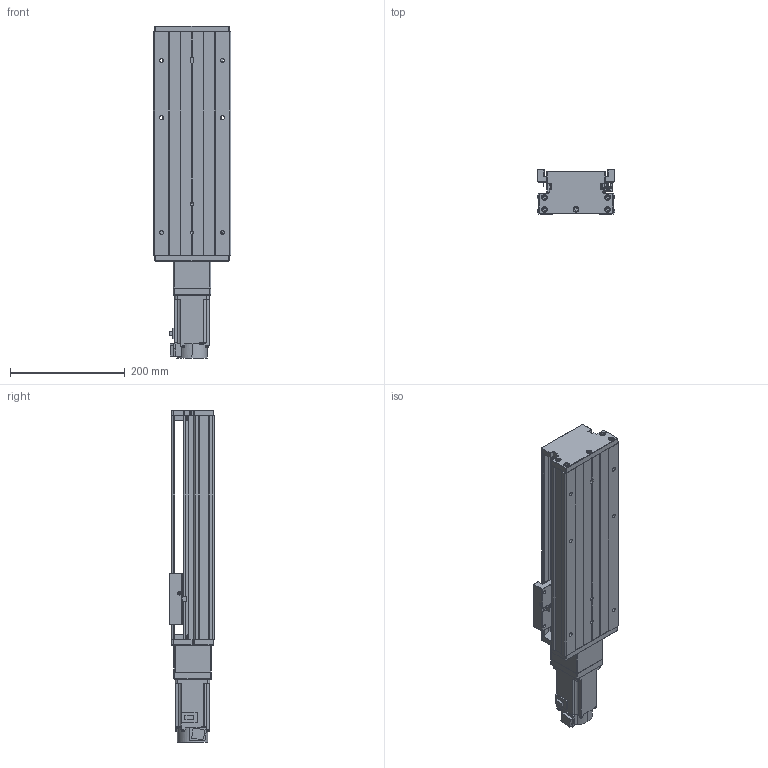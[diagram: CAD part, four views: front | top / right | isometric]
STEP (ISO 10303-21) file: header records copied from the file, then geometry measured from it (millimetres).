
FILE_DESCRIPTION (( 'STEP AP203' ), '1' );
FILE_NAME ('KTH130-250-BC-M40-C4.step', '2023-06-30T03:53:34', ( '微软用户' ), ( '微软中国' ), 'SwSTEP 2.0', 'SolidWorks 2020', '' );
FILE_SCHEMA (( 'CONFIG_CONTROL_DESIGN' ));
Length unit declared in the file: millimetre
Products named in the file (19): GBT 70.3-M3℅8; GTH14-001_250; CTHA60-017; CTHA86-006-1_M40; KTH130-002_KTH130-002; EE_SX911P_R; CTHA86-013; KTH130-004; CTHA60-016; CTHA86-027-1; KTH130-005; GBT 70.1-M3℅5; HG-KN43J-S100; GB1155-6X6; GBT77-2000 M3×3; KTH130-250-BC-M40-C4; GBT70.1 M5℅16; す晦芛蹟隊 M3℅5; GBT 70.2-M3¡Á5_M3¡Á6
Assembly tree (52 placements, depth 2):
  KTH130-250-BC-M40-C4
    GTH14-001_250
    KTH130-002_KTH130-002
    KTH130-004
    KTH130-005
    GB1155-6X6  x2
    GBT70.1 M5℅16  x10
    GBT 70.2-M3¡Á5_M3¡Á6  x4
    CTHA60-017  x3
    EE_SX911P_R  x3
    CTHA60-016  x2
    GBT 70.1-M3℅5  x6
    GBT77-2000 M3×3  x6
    す晦芛蹟隊 M3℅5  x2
    GBT 70.3-M3℅8  x6
    CTHA86-006-1_M40
    CTHA86-013
    CTHA86-027-1
    HG-KN43J-S100
Bounding box: 135 x 78 x 578.7 mm (x, y, z)
Volume: 2932146.6 mm3; surface area: 475699.6 mm2
Topology: 55 solids, 55 shells, 2162 faces, 5230 edges, 3262 vertices
Faces by surface type: plane 1190, cylinder 584, cone 280, torus 96, sphere 12
Entity records: 39266 total; most frequent: CARTESIAN_POINT 8376, DIRECTION 5805, ORIENTED_EDGE 5744, EDGE_CURVE 2872, AXIS2_PLACEMENT_3D 1965, VECTOR 1875, LINE 1875, VERTEX_POINT 1834
